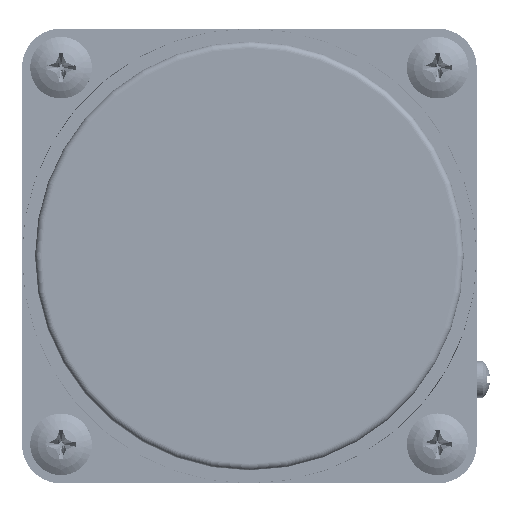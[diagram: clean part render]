
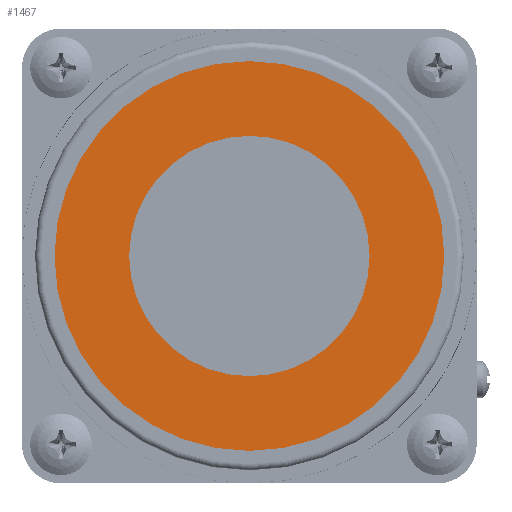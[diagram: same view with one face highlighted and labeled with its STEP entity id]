
A CAD part, left-side view. The second image highlights one B-rep face of the part: STEP entity #1467.
In plain terms, the highlighted planar face has unit normal (-1, 0, 0).
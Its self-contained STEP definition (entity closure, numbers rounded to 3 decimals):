
#1290=PLANE('',#5198);
#1467=ADVANCED_FACE('',(#1789,#1790),#1290,.T.);
#1789=FACE_BOUND('',#2034,.T.);
#1790=FACE_BOUND('',#2035,.T.);
#2034=EDGE_LOOP('',(#2714));
#2035=EDGE_LOOP('',(#2715));
#2714=ORIENTED_EDGE('',*,*,#4301,.F.);
#2715=ORIENTED_EDGE('',*,*,#4300,.F.);
#3782=VERTEX_POINT('',#7638);
#3783=VERTEX_POINT('',#7641);
#4300=EDGE_CURVE('',#3782,#3782,#4848,.T.);
#4301=EDGE_CURVE('',#3783,#3783,#4849,.T.);
#4848=CIRCLE('',#5195,30.);
#4849=CIRCLE('',#5197,18.5);
#5195=AXIS2_PLACEMENT_3D('',#7637,#5785,#5786);
#5197=AXIS2_PLACEMENT_3D('',#7640,#5789,#5790);
#5198=AXIS2_PLACEMENT_3D('',#7642,#5791,#5792);
#5785=DIRECTION('',(1.,0.,0.));
#5786=DIRECTION('',(0.,0.,-1.));
#5789=DIRECTION('',(-1.,0.,0.));
#5790=DIRECTION('',(0.,0.,-1.));
#5791=DIRECTION('',(-1.,0.,0.));
#5792=DIRECTION('',(0.,0.,-1.));
#7637=CARTESIAN_POINT('',(-91.,0.,0.));
#7638=CARTESIAN_POINT('',(-91.,0.,-30.));
#7640=CARTESIAN_POINT('',(-91.,0.,0.));
#7641=CARTESIAN_POINT('',(-91.,0.,-18.5));
#7642=CARTESIAN_POINT('',(-91.,0.,0.));
